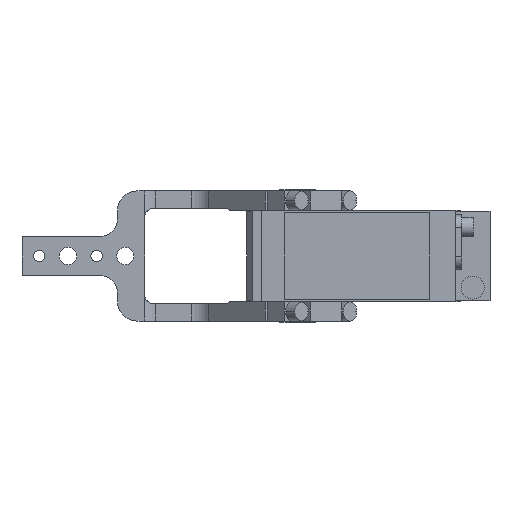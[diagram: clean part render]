
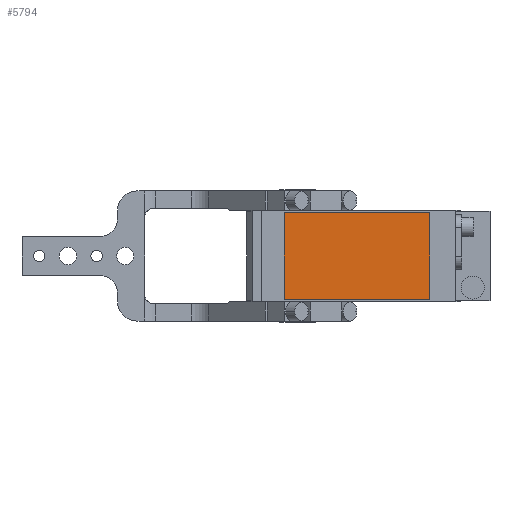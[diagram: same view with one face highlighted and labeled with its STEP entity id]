
A CAD part, front view. The second image highlights one B-rep face of the part: STEP entity #5794.
In plain terms, the highlighted planar face has unit normal (0, -1, 0).
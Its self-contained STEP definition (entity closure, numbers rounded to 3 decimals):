
#347 = VERTEX_POINT ( 'NONE', #3577 ) ;
#378 = EDGE_CURVE ( 'NONE', #3870, #347, #2870, .T. ) ;
#1098 = ORIENTED_EDGE ( 'NONE', *, *, #5294, .T. ) ;
#1723 = CARTESIAN_POINT ( 'NONE',  ( 0., -280.5, 0. ) ) ;
#1911 = VECTOR ( 'NONE', #9675, 1000. ) ;
#2018 = DIRECTION ( 'NONE',  ( 0., 0., 1. ) ) ;
#2870 = LINE ( 'NONE', #13723, #7435 ) ;
#2894 = CARTESIAN_POINT ( 'NONE',  ( -7., -280.5, -22.5 ) ) ;
#3577 = CARTESIAN_POINT ( 'NONE',  ( 69., -280.5, 22.5 ) ) ;
#3837 = DIRECTION ( 'NONE',  ( 0., 0., -1. ) ) ;
#3870 = VERTEX_POINT ( 'NONE', #4881 ) ;
#4060 = ORIENTED_EDGE ( 'NONE', *, *, #10192, .T. ) ;
#4273 = EDGE_LOOP ( 'NONE', ( #4060, #12284, #9810, #1098 ) ) ;
#4881 = CARTESIAN_POINT ( 'NONE',  ( 69., -280.5, -22.5 ) ) ;
#4972 = CARTESIAN_POINT ( 'NONE',  ( -7., -280.5, 22.5 ) ) ;
#5294 = EDGE_CURVE ( 'NONE', #347, #11213, #13001, .T. ) ;
#5794 = ADVANCED_FACE ( 'NONE', ( #13555 ), #13496, .T. ) ;
#5876 = LINE ( 'NONE', #4972, #6570 ) ;
#6570 = VECTOR ( 'NONE', #10234, 1000. ) ;
#6791 = CARTESIAN_POINT ( 'NONE',  ( -7., -280.5, 22.5 ) ) ;
#6817 = VERTEX_POINT ( 'NONE', #2894 ) ;
#7435 = VECTOR ( 'NONE', #2018, 1000. ) ;
#7606 = CARTESIAN_POINT ( 'NONE',  ( -7., -280.5, 22.5 ) ) ;
#9533 = LINE ( 'NONE', #11799, #1911 ) ;
#9675 = DIRECTION ( 'NONE',  ( 1., 0., 0. ) ) ;
#9810 = ORIENTED_EDGE ( 'NONE', *, *, #378, .T. ) ;
#9960 = DIRECTION ( 'NONE',  ( -1., 0., 0. ) ) ;
#10192 = EDGE_CURVE ( 'NONE', #11213, #6817, #5876, .T. ) ;
#10234 = DIRECTION ( 'NONE',  ( 0., 0., -1. ) ) ;
#11213 = VERTEX_POINT ( 'NONE', #6791 ) ;
#11753 = VECTOR ( 'NONE', #9960, 1000. ) ;
#11799 = CARTESIAN_POINT ( 'NONE',  ( -7., -280.5, -22.5 ) ) ;
#12284 = ORIENTED_EDGE ( 'NONE', *, *, #13399, .T. ) ;
#13001 = LINE ( 'NONE', #7606, #11753 ) ;
#13338 = DIRECTION ( 'NONE',  ( 0., -1., 0. ) ) ;
#13399 = EDGE_CURVE ( 'NONE', #6817, #3870, #9533, .T. ) ;
#13496 = PLANE ( 'NONE',  #13542 ) ;
#13542 = AXIS2_PLACEMENT_3D ( 'NONE', #1723, #13338, #3837 ) ;
#13555 = FACE_OUTER_BOUND ( 'NONE', #4273, .T. ) ;
#13723 = CARTESIAN_POINT ( 'NONE',  ( 69., -280.5, 22.5 ) ) ;
